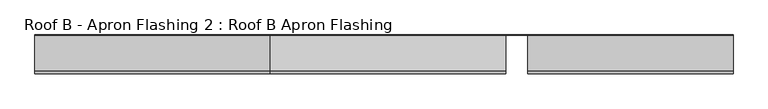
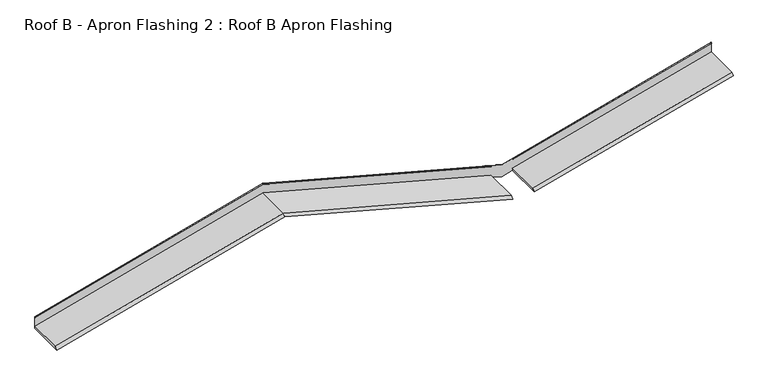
"""IFC4 building model written with IfcOpenShell, lengths in millimetres: proxy geometry, Roof B - Apron Flashing 2 : Roof B Apron Flashing."""

from ifc_helpers import new_model, si_unit, frame, origin, place, context, project, spatial, ellipse_curve, source, transform, mapped, element, save
from ifc_brep_helpers import plane_surface, cylinder_surface, advanced_brep


def roof_b_apron_flashing_2_roof_b_apron_flashing_bac6bcd3(model_context):
    return source(origin(), model_context, "Body", "AdvancedBrep", [
        advanced_brep(
        [(-13773.1375384, -22479.5754875, 3993.4914166), (-13773.1375384, -22506.5754875, 3965.5389597), (-11180.8451914, -22506.5754875, 3270.9363188), (-11180.8451914, -22479.5754875, 3298.8887757), (-13773.1375384, -22076.6704124, 3965.5389597), (-11058.1375384, -22076.6704124, 3238.0569023), (-11058.1375384, -22077.6704124, 3238.0569023), (-11180.8451914, -22077.6704124, 3270.9363188), (-13773.1375384, -22077.8944008, 4106.5414436), (-13773.1375384, -22081.6843822, 4100.4995101), (-11180.8451914, -22081.6843822, 3405.8968692), (-11180.8451914, -22077.8944008, 3411.9388026), (-13773.1375384, -22077.6704124, 3993.4914166), (-11180.8451914, -22077.6704124, 3298.8887757), (-16365.5018007, -22506.5754875, 3270.9170492), (-16365.5018007, -22076.6704124, 3270.9170492), (-16365.5018007, -22077.8944008, 3411.919533), (-16365.5018007, -22081.6843822, 3405.8775996), (-16365.5018007, -22077.6704124, 3298.869506), (-16365.5018007, -22479.5754875, 3298.869506), (-10935.8451914, -22479.5754875, 3298.7774948), (-10935.8451914, -22506.5754875, 3270.8250379), (-8674.7743834, -22506.5754875, 3876.6771349), (-8674.7743834, -22479.5754875, 3904.6295918), (-10874.6116314, -22076.6704124, 3287.2325209), (-10874.6116314, -22468.5879146, 3287.2325209), (-8674.7743834, -22468.5879146, 3876.6771349), (-10935.8451914, -22077.6704124, 3270.8250379), (-16365.5018007, -22076.6704124, 3411.5441813), (-13773.1375384, -22076.6704124, 4106.1660919), (-11058.1375384, -22076.6704124, 3378.6840344), (-8674.7743834, -22076.6704124, 4017.3042671), (-8674.7743834, -22076.6704124, 3903.6072157), (-10874.6116314, -22076.6704124, 3314.1626016), (-10935.8451914, -22077.8944008, 3411.8275217), (-10935.8451914, -22081.6843822, 3405.7855883), (-8674.7743834, -22081.6843822, 4011.6376853), (-8674.7743834, -22077.8944008, 4017.6796188), (-10935.8451914, -22077.6704124, 3298.7774948), (-8674.7743834, -22077.6704124, 3904.6295918), (-8674.7743834, -22077.6704124, 4016.1358495), (-10935.8451914, -22077.6704124, 3410.2837525), (-10935.8451914, -22077.6704124, 3412.0481369), (-11058.1375384, -22077.6704124, 3379.2800012), (-11180.8451914, -22077.6704124, 3412.1594178), (-11180.8451914, -22077.6704124, 3410.3950334), (-13773.1375384, -22077.6704124, 4104.9976743), (-16365.5018007, -22077.6704124, 3410.3757638), (-10935.8451914, -22080.8457116, 3405.2217365), (-8674.7743834, -22080.8457116, 4011.0738335), (-13773.1375384, -22080.8457116, 4099.9356583), (-11180.8451914, -22080.8457116, 3405.3330174), (-16365.5018007, -22080.8457116, 3405.3137477), (-10874.6116314, -22468.5879146, 3314.1626016), (-8674.7743834, -22468.5879146, 3903.6072157)],
        [
            (0, 1),
            (1, 2),
            (2, 3),
            (3, 0),
            (1, 4),
            (4, 5),
            (5, 6),
            (6, 7),
            (7, 2),
            (8, 9),
            (9, 10),
            (10, 11),
            (11, 8),
            (12, 0),
            (3, 13),
            (13, 12),
            (1, 14),
            (14, 15),
            (15, 4),
            (8, 16),
            (16, 17),
            (17, 9),
            (12, 18),
            (18, 19),
            (19, 0),
            (20, 21),
            (21, 22),
            (22, 23),
            (23, 20),
            (5, 24),
            (24, 25),
            (25, 26),
            (26, 22),
            (21, 27),
            (27, 6),
            (15, 28),
            (28, 29),
            (29, 30),
            (30, 31),
            (31, 32),
            (32, 33),
            (33, 24),
            (34, 35),
            (35, 36),
            (36, 37),
            (37, 34),
            (13, 7),
            (27, 38),
            (38, 39),
            (39, 40),
            (40, 41),
            (41, 42),
            (42, 43),
            (43, 44),
            (44, 45),
            (45, 46),
            (46, 47),
            (47, 18),
            (38, 20),
            (23, 39),
            (30, 43, ellipse_curve(frame((-11058.1375384, -22077.3361044, 3378.6840344), z_axis=(1.0, 0.0, 0.0), x_axis=(0.0, 0.0, 1.0)), 0.6891751, 0.6656921)),
            (42, 34, ellipse_curve(frame((-10935.8451914, -22077.3361044, 3411.4521701), z_axis=(1.0, 0.0, 0.0), x_axis=(0.0, 0.0, 1.0)), 0.6891751, 0.6656921)),
            (37, 31, ellipse_curve(frame((-8674.7743834, -22077.3361044, 4017.3042671), z_axis=(-1.0, 0.0, 0.0), x_axis=(0.0, 0.0, 1.0)), 0.6891751, 0.6656921)),
            (35, 48, ellipse_curve(frame((-10935.8451914, -22081.2650469, 3405.5036624), z_axis=(1.0, 0.0, 0.0), x_axis=(0.0, 0.0, 1.0)), 0.5176381, 0.5)),
            (48, 49),
            (49, 36, ellipse_curve(frame((-8674.7743834, -22081.2650469, 4011.3557594), z_axis=(-1.0, 0.0, 0.0), x_axis=(0.0, 0.0, 1.0)), 0.5176381, 0.5)),
            (48, 41),
            (40, 49),
            (29, 8, ellipse_curve(frame((-13773.1375384, -22077.3361044, 4106.1660919), z_axis=(1.0, 0.0, 0.0), x_axis=(0.0, 0.0, -1.0)), 0.6891751, 0.6656921)),
            (11, 44, ellipse_curve(frame((-11180.8451914, -22077.3361044, 3411.563451), z_axis=(-1.0, 0.0, 0.0), x_axis=(0.0, 0.0, -1.0)), 0.6891751, 0.6656921)),
            (9, 50, ellipse_curve(frame((-13773.1375384, -22081.2650469, 4100.2175842), z_axis=(1.0, 0.0, 0.0), x_axis=(0.0, 0.0, -1.0)), 0.5176381, 0.5)),
            (50, 51),
            (51, 10, ellipse_curve(frame((-11180.8451914, -22081.2650469, 3405.6149433), z_axis=(-1.0, 0.0, 0.0), x_axis=(0.0, 0.0, -1.0)), 0.5176381, 0.5)),
            (50, 46),
            (45, 51),
            (28, 16, ellipse_curve(frame((-16365.5018007, -22077.3361044, 3411.5441813), z_axis=(1.0, 0.0, 0.0), x_axis=(0.0, 0.0, 1.0)), 0.6891751, 0.6656921)),
            (17, 52, ellipse_curve(frame((-16365.5018007, -22081.2650469, 3405.5956737), z_axis=(1.0, 0.0, 0.0), x_axis=(0.0, 0.0, 1.0)), 0.5176381, 0.5)),
            (52, 50),
            (52, 47),
            (19, 14),
            (25, 53),
            (53, 54),
            (54, 26),
            (53, 33),
            (32, 54),
        ],
        [
            plane_surface(frame((-11058.1375384, -22479.5754875, 3266.0093592), z_axis=(0.1830127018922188, -0.7071067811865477, 0.6830127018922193), x_axis=(-0.9659258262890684, 0.0, 0.2588190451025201))),
            plane_surface(frame((-11058.1375384, -22506.5754875, 3238.0569023), z_axis=(-0.2588190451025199, 0.0, -0.9659258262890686), x_axis=(-0.9659258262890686, 0.0, 0.2588190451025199))),
            plane_surface(frame((-11058.1375384, -22077.8944008, 3379.0593861), z_axis=(0.14096295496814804, -0.8386705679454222, 0.5260809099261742), x_axis=(-0.9659258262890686, 0.0, 0.2588190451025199))),
            plane_surface(frame((-11058.1375384, -22077.6704124, 3266.0093592), z_axis=(0.2588190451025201, 0.0, 0.9659258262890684), x_axis=(-0.9659258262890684, 0.0, 0.2588190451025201))),
            plane_surface(frame((-13773.1375384, -22506.5754875, 3965.5389597), z_axis=(0.25881904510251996, 0.0, -0.9659258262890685), x_axis=(-0.9659258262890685, 0.0, -0.25881904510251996))),
            plane_surface(frame((-13773.1375384, -22077.8944008, 4106.5414436), z_axis=(-0.14096295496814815, -0.838670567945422, 0.5260809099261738), x_axis=(-0.9659258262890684, 0.0, -0.2588190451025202))),
            plane_surface(frame((-13773.1375384, -22077.6704124, 3993.4914166), z_axis=(-0.2588190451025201, 0.0, 0.9659258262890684), x_axis=(-0.9659258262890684, 0.0, -0.2588190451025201))),
            plane_surface(frame((-8555.1549111, -22479.5754875, 3936.6815328), z_axis=(-0.18301270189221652, -0.7071067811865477, 0.6830127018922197), x_axis=(-0.9659258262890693, 0.0, -0.2588190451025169))),
            plane_surface(frame((-8548.1667969, -22506.5754875, 3910.6015355), z_axis=(0.2588190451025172, 0.0, -0.9659258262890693), x_axis=(-0.9659258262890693, 0.0, -0.2588190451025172))),
            plane_surface(frame((-8548.1667969, -22076.6704124, 3910.6015355), z_axis=(0.0, 1.0000000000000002, 0.0), x_axis=(-0.9659258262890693, 0.0, -0.2588190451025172))),
            plane_surface(frame((-8583.4174178, -22077.8944008, 4042.1586439), z_axis=(-0.14096295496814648, -0.8386705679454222, 0.5260809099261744), x_axis=(-0.9659258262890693, 0.0, -0.2588190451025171))),
            plane_surface(frame((-8583.0314755, -22077.6704124, 4040.7182876), z_axis=(0.0, -1.0, 0.0), x_axis=(-0.9659258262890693, 0.0, -0.2588190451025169))),
            plane_surface(frame((-8555.1549111, -22077.6704124, 3936.6815328), z_axis=(-0.258819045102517, 0.0, 0.9659258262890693), x_axis=(-0.9659258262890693, 0.0, -0.258819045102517))),
            cylinder_surface(frame((-8583.3235799, -22077.3361044, 4041.808436), z_axis=(0.9659258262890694, 0.0, 0.2588190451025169), x_axis=(-0.2588190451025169, 0.0, 0.9659258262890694)), 0.6656921),
            cylinder_surface(frame((-8581.836453, -22081.2650469, 4036.2584028), z_axis=(0.9659258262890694, 0.0, 0.2588190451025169), x_axis=(-0.2588190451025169, 0.0, 0.9659258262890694)), 0.5),
            plane_surface(frame((-8581.7659715, -22080.8457116, 4035.9953624), z_axis=(0.14096295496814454, 0.838670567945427, -0.5260809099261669), x_axis=(-0.9659258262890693, 0.0, -0.2588190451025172))),
            cylinder_surface(frame((-11002.225832, -22077.3361044, 3363.7025379), z_axis=(0.9659258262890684, 0.0, -0.2588190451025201), x_axis=(0.2588190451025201, 0.0, 0.9659258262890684)), 0.6656921),
            cylinder_surface(frame((-11003.7129589, -22081.2650469, 3358.1525047), z_axis=(0.9659258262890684, 0.0, -0.2588190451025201), x_axis=(0.2588190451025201, 0.0, 0.9659258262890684)), 0.5),
            plane_surface(frame((-11058.1375384, -22080.8457116, 3372.4536009), z_axis=(-0.14096295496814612, 0.8386705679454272, -0.5260809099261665), x_axis=(-0.9659258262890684, 0.0, 0.2588190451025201))),
            cylinder_surface(frame((-13829.0492448, -22077.3361044, 4091.1845953), z_axis=(0.9659258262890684, 0.0, 0.2588190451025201), x_axis=(-0.2588190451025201, 0.0, 0.9659258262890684)), 0.6656921),
            cylinder_surface(frame((-13827.5621179, -22081.2650469, 4085.6345621), z_axis=(0.9659258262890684, 0.0, 0.2588190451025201), x_axis=(-0.2588190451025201, 0.0, 0.9659258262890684)), 0.5),
            plane_surface(frame((-13773.1375384, -22080.8457116, 4099.9356583), z_axis=(0.14096295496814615, 0.8386705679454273, -0.5260809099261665), x_axis=(-0.9659258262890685, 0.0, -0.25881904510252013))),
            plane_surface(frame((-13773.1375384, -22479.5754875, 3993.4914166), z_axis=(-0.18301270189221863, -0.7071067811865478, 0.6830127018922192), x_axis=(-0.9659258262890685, 0.0, -0.2588190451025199))),
            plane_surface(frame((-16365.5018007, -27037.8948272, 4191.6207588), z_axis=(-1.0, 0.0, 0.0), x_axis=(0.0, 0.0, -1.0))),
            plane_surface(frame((-10935.8451914, -22786.7333205, 3660.9894786), z_axis=(-1.0, 0.0, 0.0), x_axis=(0.0, 0.0, -1.0))),
            plane_surface(frame((-11180.8451914, -22077.6704124, 3660.9894786), z_axis=(1.0, 0.0, 0.0), x_axis=(0.0, 0.0, -1.0))),
            plane_surface(frame((-10874.6116314, -22468.5879146, 3214.1626016), z_axis=(0.0, 1.0, 0.0), x_axis=(1.0, 0.0, 0.0))),
            plane_surface(frame((-8159.6116314, -22468.5879146, 4041.6446591), z_axis=(0.25881904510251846, 0.0, -0.965925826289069), x_axis=(0.0, 1.0, 0.0))),
            plane_surface(frame((-10874.6116314, -22468.5879146, 3314.1626016), z_axis=(1.0, 0.0, 0.0), x_axis=(0.0, 1.0, 0.0))),
            plane_surface(frame((-8674.7743834, -24856.1864455, 4310.4787487), z_axis=(1.0, 0.0, 0.0), x_axis=(0.0, 1.0, 0.0))),
        ],
        [
            (0, [[1, 2, 3, 4]]),
            (1, [[5, 6, 7, 8, 9, -2]]),
            (2, [[10, 11, 12, 13]]),
            (3, [[14, -4, 15, 16]]),
            (4, [[-5, 17, 18, 19]]),
            (5, [[-10, 20, 21, 22]]),
            (6, [[-14, 23, 24, 25]]),
            (7, [[26, 27, 28, 29]]),
            (8, [[-7, 30, 31, 32, 33, -27, 34, 35]]),
            (9, [[-6, -19, 36, 37, 38, 39, 40, 41, 42, -30]]),
            (10, [[43, 44, 45, 46]]),
            (11, [[-23, -16, 47, -8, -35, 48, 49, 50, 51, 52, 53, 54, 55, 56, 57, 58]]),
            (12, [[59, -29, 60, -49]]),
            (13, [[61, -53, 62, -46, 63, -39]]),
            (14, [[64, 65, 66, -44]]),
            (15, [[67, -51, 68, -65]]),
            (16, [[-38, 69, -13, 70, -54, -61]]),
            (17, [[71, 72, 73, -11]]),
            (18, [[74, -56, 75, -72]]),
            (19, [[-69, -37, 76, -20]]),
            (20, [[-71, -22, 77, 78]]),
            (21, [[-74, -78, 79, -57]]),
            (22, [[-1, -25, 80, -17]]),
            (23, [[-18, -80, -24, -58, -79, -77, -21, -76, -36]]),
            (24, [[-48, -34, -26, -59]]),
            (24, [[-52, -67, -64, -43, -62]]),
            (25, [[-47, -15, -3, -9]]),
            (25, [[-55, -70, -12, -73, -75]]),
            (26, [[81, 82, 83, -32]]),
            (27, [[84, -41, 85, -82]]),
            (28, [[-81, -31, -42, -84]]),
            (29, [[-28, -33, -83, -85, -40, -63, -45, -66, -68, -50, -60]]),
        ],
    ),
    ])


if __name__ == "__main__":
    model = new_model("IFC4")
    model_context = context("Model", 3, world=origin())
    ifc_project = project(units=[si_unit("LENGTHUNIT", "METRE", prefix="MILLI")], contexts=[model_context])
    site = spatial("IfcSite", under=ifc_project)
    building = spatial("IfcBuilding", under=site)
    placement = place(None, origin())
    roof_b_apron_flashing_2_roof_b_apron_flashing_shape = roof_b_apron_flashing_2_roof_b_apron_flashing_bac6bcd3(model_context)
    element("IfcBuildingElementProxy", 1, Name="Roof B - Apron Flashing 2 : Roof B Apron Flashing", ObjectType="Roof B - Apron Flashing 2 : Roof B Apron Flashing", at=placement, inside=building, context=model_context, shape_type="MappedRepresentation", body=[
        mapped(roof_b_apron_flashing_2_roof_b_apron_flashing_shape, transform((0.0, 0.0, 0.0), x_axis=(1.0, 0.0, 0.0), y_axis=(0.0, 1.0, 0.0), z_axis=(0.0, 0.0, 1.0))),
    ])
    save(model, "model.ifc")
